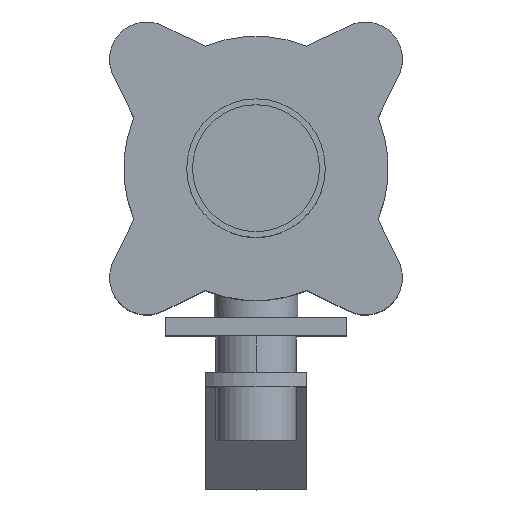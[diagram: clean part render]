
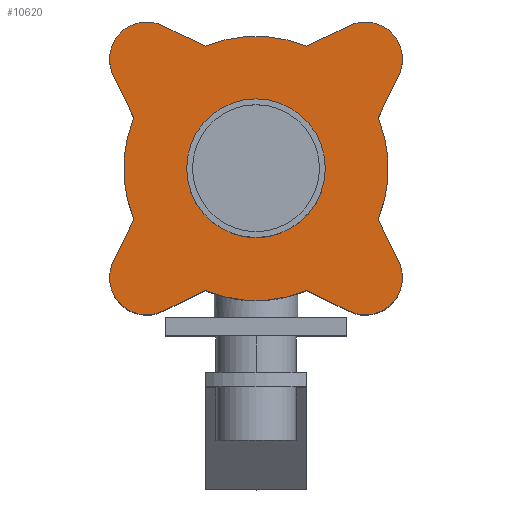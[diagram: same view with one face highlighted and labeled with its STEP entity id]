
A CAD part, top view. The second image highlights one B-rep face of the part: STEP entity #10620.
In plain terms, the highlighted planar face has unit normal (0, 0, 1).
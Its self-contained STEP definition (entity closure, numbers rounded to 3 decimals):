
#3440=CARTESIAN_POINT('',(-13.972,-33.558,
37.029));
#3450=VERTEX_POINT('',#3440);
#3480=CARTESIAN_POINT('',(0.,0.,
37.029));
#3490=DIRECTION('',(0.,0.,-1.));
#3500=DIRECTION('',(-0.707,0.707,
0.));
#3510=AXIS2_PLACEMENT_3D('',#3480,#3490,#3500);
#3520=CIRCLE('',#3510,36.35);
#3530=CARTESIAN_POINT('',(13.972,-33.558,
37.029));
#3540=VERTEX_POINT('',#3530);
#3550=EDGE_CURVE('',#3540,#3450,#3520,.T.);
#3710=CARTESIAN_POINT('',(-17.976,-17.976,
37.029));
#3720=DIRECTION('',(0.899,-0.438,
0.));
#3730=VECTOR('',#3720,1.);
#3740=LINE('',#3710,#3730);
#3750=CARTESIAN_POINT('',(25.581,-39.22,
37.029));
#3760=VERTEX_POINT('',#3750);
#3770=EDGE_CURVE('',#3540,#3760,#3740,.T.);
#6930=CARTESIAN_POINT('',(17.976,-17.976,
37.029));
#6940=DIRECTION('',(0.899,0.438,
0.));
#6950=VECTOR('',#6940,1.);
#6960=LINE('',#6930,#6950);
#6970=CARTESIAN_POINT('',(-25.581,-39.22,
37.029));
#6980=VERTEX_POINT('',#6970);
#6990=EDGE_CURVE('',#6980,#3450,#6960,.T.);
#7170=CARTESIAN_POINT('',(-30.052,-30.052,
37.029));
#7180=DIRECTION('',(0.,0.,-1.));
#7190=DIRECTION('',(-0.707,0.707,
0.));
#7200=AXIS2_PLACEMENT_3D('',#7170,#7180,#7190);
#7210=CIRCLE('',#7200,10.2);
#7220=CARTESIAN_POINT('',(-39.22,-25.581,
37.029));
#7230=VERTEX_POINT('',#7220);
#7240=EDGE_CURVE('',#6980,#7230,#7210,.T.);
#7420=CARTESIAN_POINT('',(-17.976,17.976,
37.029));
#7430=DIRECTION('',(-0.438,-0.899,
0.));
#7440=VECTOR('',#7430,1.);
#7450=LINE('',#7420,#7440);
#7460=CARTESIAN_POINT('',(-33.558,-13.972,
37.029));
#7470=VERTEX_POINT('',#7460);
#7480=EDGE_CURVE('',#7470,#7230,#7450,.T.);
#7710=CARTESIAN_POINT('',(-33.558,13.972,
37.029));
#7720=VERTEX_POINT('',#7710);
#7750=CARTESIAN_POINT('',(0.,0.,
37.029));
#7760=DIRECTION('',(0.,0.,-1.));
#7770=DIRECTION('',(-0.707,0.707,
0.));
#7780=AXIS2_PLACEMENT_3D('',#7750,#7760,#7770);
#7790=CIRCLE('',#7780,36.35);
#7800=EDGE_CURVE('',#7470,#7720,#7790,.T.);
#7910=CARTESIAN_POINT('',(-17.976,-17.976,
37.029));
#7920=DIRECTION('',(0.438,-0.899,
0.));
#7930=VECTOR('',#7920,1.);
#7940=LINE('',#7910,#7930);
#7950=CARTESIAN_POINT('',(-39.22,25.581,
37.029));
#7960=VERTEX_POINT('',#7950);
#7970=EDGE_CURVE('',#7960,#7720,#7940,.T.);
#8210=CARTESIAN_POINT('',(-25.581,39.22,
37.029));
#8220=VERTEX_POINT('',#8210);
#8250=CARTESIAN_POINT('',(-30.052,30.052,
37.029));
#8260=DIRECTION('',(0.,0.,-1.));
#8270=DIRECTION('',(-0.707,0.707,
0.));
#8280=AXIS2_PLACEMENT_3D('',#8250,#8260,#8270);
#8290=CIRCLE('',#8280,10.2);
#8300=EDGE_CURVE('',#7960,#8220,#8290,.T.);
#8400=CARTESIAN_POINT('',(17.976,17.976,
37.029));
#8410=DIRECTION('',(-0.899,0.438,
0.));
#8420=VECTOR('',#8410,1.);
#8430=LINE('',#8400,#8420);
#8440=CARTESIAN_POINT('',(-13.972,33.558,
37.029));
#8450=VERTEX_POINT('',#8440);
#8460=EDGE_CURVE('',#8450,#8220,#8430,.T.);
#8690=CARTESIAN_POINT('',(13.972,33.558,
37.029));
#8700=VERTEX_POINT('',#8690);
#8730=CARTESIAN_POINT('',(0.,0.,
37.029));
#8740=DIRECTION('',(0.,0.,-1.));
#8750=DIRECTION('',(-0.707,0.707,
0.));
#8760=AXIS2_PLACEMENT_3D('',#8730,#8740,#8750);
#8770=CIRCLE('',#8760,36.35);
#8780=EDGE_CURVE('',#8450,#8700,#8770,.T.);
#8890=CARTESIAN_POINT('',(-17.976,17.976,
37.029));
#8900=DIRECTION('',(-0.899,-0.438,
0.));
#8910=VECTOR('',#8900,1.);
#8920=LINE('',#8890,#8910);
#8930=CARTESIAN_POINT('',(25.581,39.22,
37.029));
#8940=VERTEX_POINT('',#8930);
#8950=EDGE_CURVE('',#8940,#8700,#8920,.T.);
#9130=CARTESIAN_POINT('',(30.052,30.052,
37.029));
#9140=DIRECTION('',(0.,0.,-1.));
#9150=DIRECTION('',(-0.707,0.707,
0.));
#9160=AXIS2_PLACEMENT_3D('',#9130,#9140,#9150);
#9170=CIRCLE('',#9160,10.2);
#9180=CARTESIAN_POINT('',(39.22,25.581,
37.029));
#9190=VERTEX_POINT('',#9180);
#9200=EDGE_CURVE('',#8940,#9190,#9170,.T.);
#9430=CARTESIAN_POINT('',(33.558,13.972,
37.029));
#9440=VERTEX_POINT('',#9430);
#9470=CARTESIAN_POINT('',(17.976,-17.976,
37.029));
#9480=DIRECTION('',(0.438,0.899,
0.));
#9490=VECTOR('',#9480,1.);
#9500=LINE('',#9470,#9490);
#9510=EDGE_CURVE('',#9440,#9190,#9500,.T.);
#9670=CARTESIAN_POINT('',(33.558,-13.972,
37.029));
#9680=VERTEX_POINT('',#9670);
#9710=CARTESIAN_POINT('',(0.,0.,
37.029));
#9720=DIRECTION('',(0.,0.,-1.));
#9730=DIRECTION('',(-0.707,0.707,
0.));
#9740=AXIS2_PLACEMENT_3D('',#9710,#9720,#9730);
#9750=CIRCLE('',#9740,36.35);
#9760=EDGE_CURVE('',#9440,#9680,#9750,.T.);
#9920=CARTESIAN_POINT('',(39.22,-25.581,
37.029));
#9930=VERTEX_POINT('',#9920);
#9960=CARTESIAN_POINT('',(17.976,17.976,
37.029));
#9970=DIRECTION('',(-0.438,0.899,
0.));
#9980=VECTOR('',#9970,1.);
#9990=LINE('',#9960,#9980);
#10000=EDGE_CURVE('',#9930,#9680,#9990,.T.);
#10110=CARTESIAN_POINT('',(30.052,-30.052,
37.029));
#10120=DIRECTION('',(0.,0.,-1.));
#10130=DIRECTION('',(-0.707,0.707,
0.));
#10140=AXIS2_PLACEMENT_3D('',#10110,#10120,#10130);
#10150=CIRCLE('',#10140,10.2);
#10160=EDGE_CURVE('',#9930,#3760,#10150,.T.);
#10240=CARTESIAN_POINT('',(37.265,37.265,
37.029));
#10250=DIRECTION('',(0.,0.,-1.));
#10260=DIRECTION('',(-0.707,-0.707,
0.));
#10270=AXIS2_PLACEMENT_3D('',#10240,#10250,#10260);
#10280=PLANE('',#10270);
#10290=ORIENTED_EDGE('',*,*,#3550,.F.);
#10300=ORIENTED_EDGE('',*,*,#6990,.T.);
#10310=ORIENTED_EDGE('',*,*,#7240,.F.);
#10320=ORIENTED_EDGE('',*,*,#7480,.T.);
#10330=ORIENTED_EDGE('',*,*,#7800,.F.);
#10340=ORIENTED_EDGE('',*,*,#7970,.T.);
#10350=ORIENTED_EDGE('',*,*,#8300,.F.);
#10360=ORIENTED_EDGE('',*,*,#8460,.T.);
#10370=ORIENTED_EDGE('',*,*,#8780,.F.);
#10380=ORIENTED_EDGE('',*,*,#8950,.T.);
#10390=ORIENTED_EDGE('',*,*,#9200,.F.);
#10400=ORIENTED_EDGE('',*,*,#9510,.T.);
#10410=ORIENTED_EDGE('',*,*,#9760,.F.);
#10420=ORIENTED_EDGE('',*,*,#10000,.T.);
#10430=ORIENTED_EDGE('',*,*,#10160,.F.);
#10440=ORIENTED_EDGE('',*,*,#3770,.T.);
#10450=EDGE_LOOP('',(#10440,#10430,#10420,#10410,#10400,#10390,#10380,
#10370,#10360,#10350,#10340,#10330,#10320,#10310,#10300,#10290));
#10460=FACE_OUTER_BOUND('',#10450,.T.);
#10470=CARTESIAN_POINT('',(0.,0.,
37.029));
#10480=DIRECTION('',(0.,0.,1.));
#10490=DIRECTION('',(1.,0.,0.));
#10500=AXIS2_PLACEMENT_3D('',#10470,#10480,#10490);
#10510=CIRCLE('',#10500,19.05);
#10520=CARTESIAN_POINT('',(-19.05,0.,37.029
));
#10530=VERTEX_POINT('',#10520);
#10540=CARTESIAN_POINT('',(19.05,0.,37.029));
#10550=VERTEX_POINT('',#10540);
#10560=EDGE_CURVE('',#10530,#10550,#10510,.T.);
#10570=ORIENTED_EDGE('',*,*,#10560,.F.);
#10580=EDGE_CURVE('',#10550,#10530,#10510,.T.);
#10590=ORIENTED_EDGE('',*,*,#10580,.F.);
#10600=EDGE_LOOP('',(#10590,#10570));
#10610=FACE_BOUND('',#10600,.T.);
#10620=ADVANCED_FACE('',(#10460,#10610),#10280,.F.);
